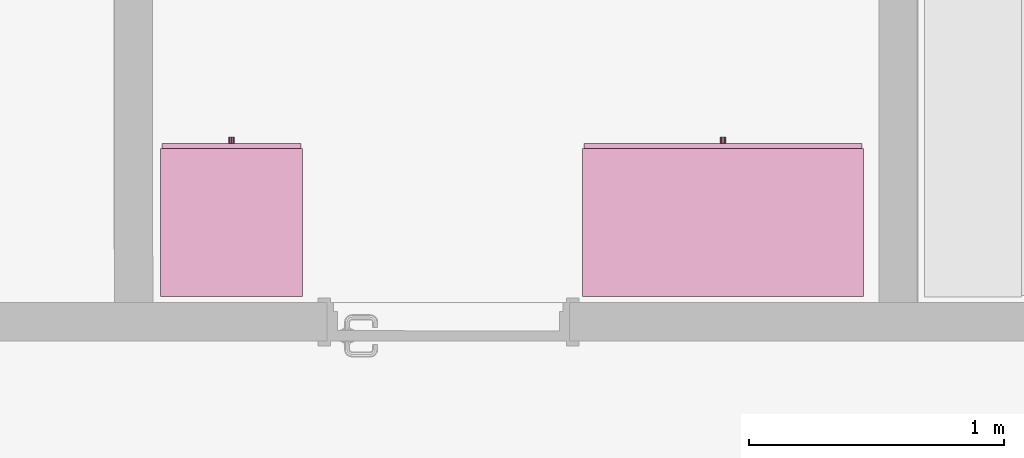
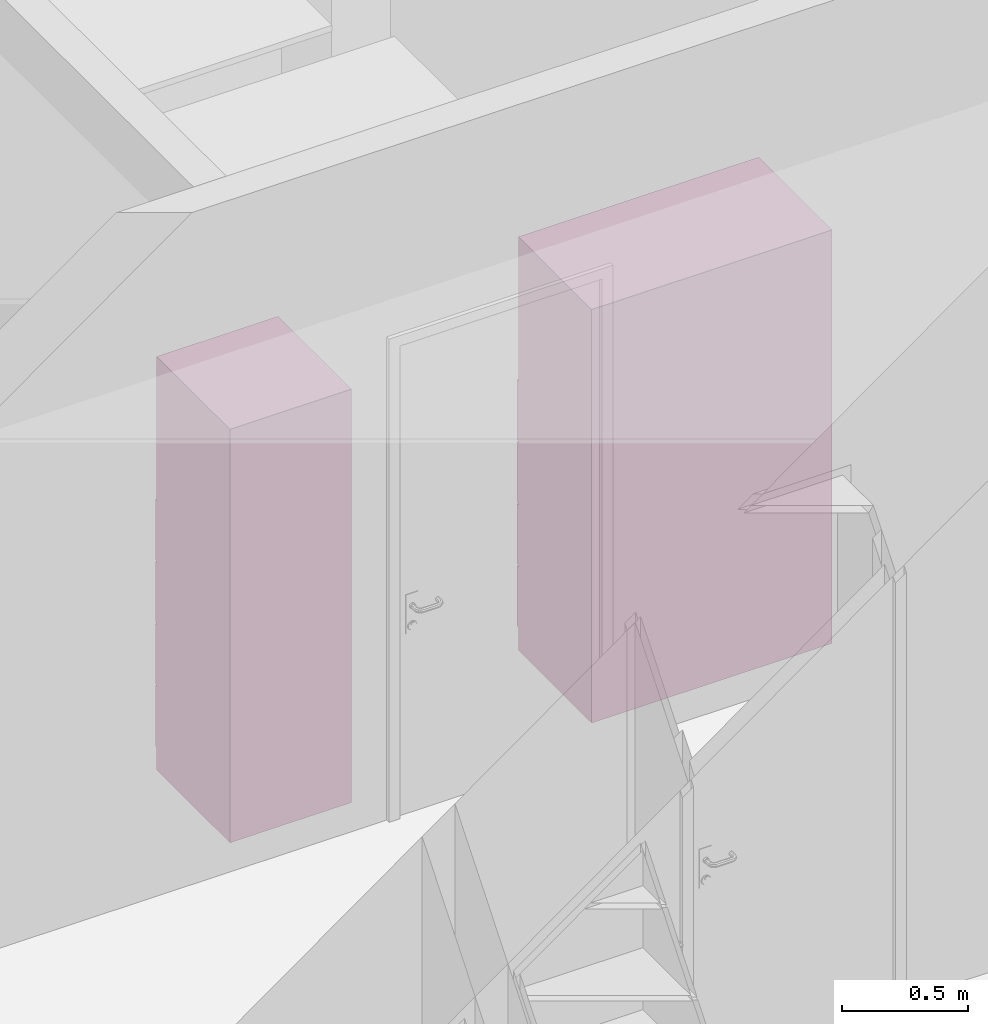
# One storey, part 183 of 194: 2 furnishings.
"""IFC2X3 building model written with IfcOpenShell, lengths in millimetres."""

from ifc_helpers import new_model, entity, si_unit, converted_unit, derived_unit, money_unit, direction, frame, origin_with_axes, place, context, subcontext, project, spatial, faceted_brep, type_object, element, save


model = new_model("IFC2X3")

# Units and contexts
model_context = context("Model", 3, precision=1e-05, world=origin_with_axes(), true_north=direction((0.0, 1.0)))
body_context = subcontext(model_context, "Body", "Model", "MODEL_VIEW")
ifc_project = project(units=[si_unit("LENGTHUNIT", "METRE", prefix="MILLI"), si_unit("AREAUNIT", "SQUARE_METRE"), si_unit("VOLUMEUNIT", "CUBIC_METRE"), converted_unit("PLANEANGLEUNIT", "DEGREE", entity("IfcPlaneAngleMeasure", 0.0174532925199), si_unit("PLANEANGLEUNIT", "RADIAN"), dimensions=[0, 0, 0, 0, 0, 0, 0]), si_unit("SOLIDANGLEUNIT", "STERADIAN"), money_unit("EUR"), converted_unit("TIMEUNIT", "Year", entity("IfcTimeMeasure", 31556926.0), si_unit("TIMEUNIT", "SECOND"), dimensions=[0, 0, 1, 0, 0, 0, 0]), si_unit("MASSUNIT", "GRAM", prefix="KILO"), si_unit("THERMODYNAMICTEMPERATUREUNIT", "DEGREE_CELSIUS"), si_unit("LUMINOUSINTENSITYUNIT", "LUMEN"), si_unit("ENERGYUNIT", "JOULE", prefix="MEGA"), derived_unit("THERMALCONDUCTANCEUNIT", [(si_unit("POWERUNIT", "WATT"), 1), (si_unit("LENGTHUNIT", "METRE"), -1), (si_unit("THERMODYNAMICTEMPERATUREUNIT", "KELVIN"), -1)]), derived_unit("SPECIFICHEATCAPACITYUNIT", [(si_unit("ENERGYUNIT", "JOULE"), 1), (si_unit("MASSUNIT", "GRAM", prefix="KILO"), -1), (si_unit("THERMODYNAMICTEMPERATUREUNIT", "KELVIN"), -1)]), derived_unit("MASSDENSITYUNIT", [(si_unit("MASSUNIT", "GRAM", prefix="KILO"), 1), (si_unit("VOLUMEUNIT", "CUBIC_METRE"), -1)])], contexts=[model_context])

# Site, building, storey
site_placement = place(None, origin_with_axes())
site = spatial("IfcSite", under=ifc_project, at=site_placement, Name="Site", CompositionType="ELEMENT")
building_placement = place(site_placement, origin_with_axes())
building = spatial("IfcBuilding", under=site, at=building_placement, Name="Building", CompositionType="ELEMENT")
storey_placement = place(building_placement, frame((0.0, 0.0, 3000.0), z_axis=(0.0, 0.0, 1.0), x_axis=(1.0, 0.0, 0.0)))
storey = spatial("IfcBuildingStorey", under=building, at=storey_placement, Name="2 KORRUS", CompositionType="ELEMENT", Elevation=3000.0)

# Furnishings
furnishing_element_type_1 = type_object("IfcFurnishingElementType", Name="Model Element 121")
furnishing_1_placement = place(storey_placement, frame((27948.9447229, 68088.4656683, 0.0), z_axis=(0.0, 0.0, 1.0), x_axis=(-1.0, 0.0, 0.0)))
element("IfcFurnishingElement", 1, at=furnishing_1_placement, inside=storey, type_object=furnishing_element_type_1, Name="FU - 001", context=body_context, shape_type="Brep", body=[
    faceted_brep([(1100.0, 19.0, 0.0), (0.0, 19.0, 0.0), (0.0, 600.0, 0.0), (1100.0, 600.0, 0.0), (1100.0, 19.0, 100.0), (0.0, 19.0, 100.0), (0.0, 600.0, 100.0), (1100.0, 600.0, 100.0)], [[[0, 1, 2, 3]], [[1, 0, 4, 5]], [[2, 1, 5, 6]], [[3, 2, 6, 7]], [[0, 3, 7, 4]], [[5, 4, 7, 6]]]),
    faceted_brep([(19.0, 600.0, 119.0), (19.0, 581.0, 119.0), (19.0, 581.0, 1981.0), (19.0, 600.0, 1981.0), (1081.0, 600.0, 119.0), (1081.0, 581.0, 119.0), (1081.0, 581.0, 1981.0), (1081.0, 600.0, 1981.0)], [[[0, 1, 2, 3]], [[0, 4, 5, 1]], [[1, 5, 6, 2]], [[3, 2, 6, 7]], [[4, 0, 3, 7]], [[5, 4, 7, 6]]]),
    faceted_brep([(1100.0, 19.0, 100.0), (1081.0, 19.0, 100.0), (1081.0, 600.0, 100.0), (1100.0, 600.0, 100.0), (1100.0, 19.0, 2000.0), (1081.0, 19.0, 2000.0), (1081.0, 600.0, 2000.0), (1100.0, 600.0, 2000.0)], [[[0, 1, 2, 3]], [[1, 0, 4, 5]], [[2, 1, 5, 6]], [[3, 2, 6, 7]], [[0, 3, 7, 4]], [[5, 4, 7, 6]]]),
    faceted_brep([(19.0, 19.0, 100.0), (0.0, 19.0, 100.0), (0.0, 600.0, 100.0), (19.0, 600.0, 100.0), (19.0, 19.0, 2000.0), (0.0, 19.0, 2000.0), (0.0, 600.0, 2000.0), (19.0, 600.0, 2000.0)], [[[0, 1, 2, 3]], [[1, 0, 4, 5]], [[2, 1, 5, 6]], [[3, 2, 6, 7]], [[0, 3, 7, 4]], [[5, 4, 7, 6]]]),
    faceted_brep([(1081.0, 19.0, 100.0), (19.0, 19.0, 100.0), (19.0, 600.0, 100.0), (1081.0, 600.0, 100.0), (1081.0, 19.0, 119.0), (19.0, 19.0, 119.0), (19.0, 600.0, 119.0), (1081.0, 600.0, 119.0)], [[[0, 1, 2, 3]], [[1, 0, 4, 5]], [[2, 1, 5, 6]], [[3, 2, 6, 7]], [[0, 3, 7, 4]], [[5, 4, 7, 6]]]),
    faceted_brep([(1081.0, 19.0, 1981.0), (19.0, 19.0, 1981.0), (19.0, 600.0, 1981.0), (1081.0, 600.0, 1981.0), (1081.0, 19.0, 2000.0), (19.0, 19.0, 2000.0), (19.0, 600.0, 2000.0), (1081.0, 600.0, 2000.0)], [[[0, 1, 2, 3]], [[1, 0, 4, 5]], [[2, 1, 5, 6]], [[3, 2, 6, 7]], [[0, 3, 7, 4]], [[5, 4, 7, 6]]]),
    faceted_brep([(5.0, 19.0, 105.0), (1095.0, 19.0, 105.0), (1095.0, 0.0, 105.0), (5.0, 0.0, 105.0), (5.0, 19.0, 395.0), (1095.0, 19.0, 395.0), (1095.0, 0.0, 395.0), (5.0, 0.0, 395.0)], [[[0, 1, 2, 3]], [[0, 4, 5, 1]], [[1, 5, 6, 2]], [[3, 2, 6, 7]], [[4, 0, 3, 7]], [[5, 4, 7, 6]]]),
    faceted_brep([(560.392304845, 0.0, 244.0), (556.0, 0.0, 239.607695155), (550.0, 0.0, 238.0), (544.0, 0.0, 239.607695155), (539.607695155, 0.0, 244.0), (538.0, 0.0, 250.0), (539.607695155, 0.0, 256.0), (544.0, 0.0, 260.392304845), (550.0, 0.0, 262.0), (556.0, 0.0, 260.392304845), (560.392304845, 0.0, 256.0), (562.0, 0.0, 250.0), (560.392304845, -25.0, 244.0), (556.0, -25.0, 239.607695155), (550.0, -25.0, 238.0), (544.0, -25.0, 239.607695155), (539.607695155, -25.0, 244.0), (538.0, -25.0, 250.0), (539.607695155, -25.0, 256.0), (544.0, -25.0, 260.392304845), (550.0, -25.0, 262.0), (556.0, -25.0, 260.392304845), (560.392304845, -25.0, 256.0), (562.0, -25.0, 250.0)], [[[0, 1, 2, 3, 4, 5, 6, 7, 8, 9, 10, 11]], [[1, 0, 12, 13]], [[2, 1, 13, 14]], [[3, 2, 14, 15]], [[4, 3, 15, 16]], [[5, 4, 16, 17]], [[6, 5, 17, 18]], [[7, 6, 18, 19]], [[8, 7, 19, 20]], [[9, 8, 20, 21]], [[10, 9, 21, 22]], [[11, 10, 22, 23]], [[0, 11, 23, 12]], [[12, 23, 22, 21, 20, 19, 18, 17, 16, 15, 14, 13]]]),
    faceted_brep([(5.0, 19.0, 405.0), (1095.0, 19.0, 405.0), (1095.0, 0.0, 405.0), (5.0, 0.0, 405.0), (5.0, 19.0, 695.0), (1095.0, 19.0, 695.0), (1095.0, 0.0, 695.0), (5.0, 0.0, 695.0)], [[[0, 1, 2, 3]], [[0, 4, 5, 1]], [[1, 5, 6, 2]], [[3, 2, 6, 7]], [[4, 0, 3, 7]], [[5, 4, 7, 6]]]),
    faceted_brep([(560.392304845, 0.0, 544.0), (556.0, 0.0, 539.607695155), (550.0, 0.0, 538.0), (544.0, 0.0, 539.607695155), (539.607695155, 0.0, 544.0), (538.0, 0.0, 550.0), (539.607695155, 0.0, 556.0), (544.0, 0.0, 560.392304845), (550.0, 0.0, 562.0), (556.0, 0.0, 560.392304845), (560.392304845, 0.0, 556.0), (562.0, 0.0, 550.0), (560.392304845, -25.0, 544.0), (556.0, -25.0, 539.607695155), (550.0, -25.0, 538.0), (544.0, -25.0, 539.607695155), (539.607695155, -25.0, 544.0), (538.0, -25.0, 550.0), (539.607695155, -25.0, 556.0), (544.0, -25.0, 560.392304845), (550.0, -25.0, 562.0), (556.0, -25.0, 560.392304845), (560.392304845, -25.0, 556.0), (562.0, -25.0, 550.0)], [[[0, 1, 2, 3, 4, 5, 6, 7, 8, 9, 10, 11]], [[1, 0, 12, 13]], [[2, 1, 13, 14]], [[3, 2, 14, 15]], [[4, 3, 15, 16]], [[5, 4, 16, 17]], [[6, 5, 17, 18]], [[7, 6, 18, 19]], [[8, 7, 19, 20]], [[9, 8, 20, 21]], [[10, 9, 21, 22]], [[11, 10, 22, 23]], [[0, 11, 23, 12]], [[12, 23, 22, 21, 20, 19, 18, 17, 16, 15, 14, 13]]]),
    faceted_brep([(5.0, 19.0, 705.0), (1095.0, 19.0, 705.0), (1095.0, 0.0, 705.0), (5.0, 0.0, 705.0), (5.0, 19.0, 995.0), (1095.0, 19.0, 995.0), (1095.0, 0.0, 995.0), (5.0, 0.0, 995.0)], [[[0, 1, 2, 3]], [[0, 4, 5, 1]], [[1, 5, 6, 2]], [[3, 2, 6, 7]], [[4, 0, 3, 7]], [[5, 4, 7, 6]]]),
    faceted_brep([(560.392304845, 0.0, 844.0), (556.0, 0.0, 839.607695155), (550.0, 0.0, 838.0), (544.0, 0.0, 839.607695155), (539.607695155, 0.0, 844.0), (538.0, 0.0, 850.0), (539.607695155, 0.0, 856.0), (544.0, 0.0, 860.392304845), (550.0, 0.0, 862.0), (556.0, 0.0, 860.392304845), (560.392304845, 0.0, 856.0), (562.0, 0.0, 850.0), (560.392304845, -25.0, 844.0), (556.0, -25.0, 839.607695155), (550.0, -25.0, 838.0), (544.0, -25.0, 839.607695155), (539.607695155, -25.0, 844.0), (538.0, -25.0, 850.0), (539.607695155, -25.0, 856.0), (544.0, -25.0, 860.392304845), (550.0, -25.0, 862.0), (556.0, -25.0, 860.392304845), (560.392304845, -25.0, 856.0), (562.0, -25.0, 850.0)], [[[0, 1, 2, 3, 4, 5, 6, 7, 8, 9, 10, 11]], [[1, 0, 12, 13]], [[2, 1, 13, 14]], [[3, 2, 14, 15]], [[4, 3, 15, 16]], [[5, 4, 16, 17]], [[6, 5, 17, 18]], [[7, 6, 18, 19]], [[8, 7, 19, 20]], [[9, 8, 20, 21]], [[10, 9, 21, 22]], [[11, 10, 22, 23]], [[0, 11, 23, 12]], [[12, 23, 22, 21, 20, 19, 18, 17, 16, 15, 14, 13]]]),
    faceted_brep([(5.0, 19.0, 1005.0), (1095.0, 19.0, 1005.0), (1095.0, 0.0, 1005.0), (5.0, 0.0, 1005.0), (5.0, 19.0, 1295.0), (1095.0, 19.0, 1295.0), (1095.0, 0.0, 1295.0), (5.0, 0.0, 1295.0)], [[[0, 1, 2, 3]], [[0, 4, 5, 1]], [[1, 5, 6, 2]], [[3, 2, 6, 7]], [[4, 0, 3, 7]], [[5, 4, 7, 6]]]),
    faceted_brep([(560.392304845, 0.0, 1144.0), (556.0, 0.0, 1139.60769515), (550.0, 0.0, 1138.0), (544.0, 0.0, 1139.60769515), (539.607695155, 0.0, 1144.0), (538.0, 0.0, 1150.0), (539.607695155, 0.0, 1156.0), (544.0, 0.0, 1160.39230485), (550.0, 0.0, 1162.0), (556.0, 0.0, 1160.39230485), (560.392304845, 0.0, 1156.0), (562.0, 0.0, 1150.0), (560.392304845, -25.0, 1144.0), (556.0, -25.0, 1139.60769515), (550.0, -25.0, 1138.0), (544.0, -25.0, 1139.60769515), (539.607695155, -25.0, 1144.0), (538.0, -25.0, 1150.0), (539.607695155, -25.0, 1156.0), (544.0, -25.0, 1160.39230485), (550.0, -25.0, 1162.0), (556.0, -25.0, 1160.39230485), (560.392304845, -25.0, 1156.0), (562.0, -25.0, 1150.0)], [[[0, 1, 2, 3, 4, 5, 6, 7, 8, 9, 10, 11]], [[1, 0, 12, 13]], [[2, 1, 13, 14]], [[3, 2, 14, 15]], [[4, 3, 15, 16]], [[5, 4, 16, 17]], [[6, 5, 17, 18]], [[7, 6, 18, 19]], [[8, 7, 19, 20]], [[9, 8, 20, 21]], [[10, 9, 21, 22]], [[11, 10, 22, 23]], [[0, 11, 23, 12]], [[12, 23, 22, 21, 20, 19, 18, 17, 16, 15, 14, 13]]]),
    faceted_brep([(19.0, 19.0, 390.5), (1081.0, 19.0, 390.5), (1081.0, 19.0, 409.5), (19.0, 19.0, 409.5), (19.0, 581.0, 390.5), (1081.0, 581.0, 390.5), (1081.0, 581.0, 409.5), (19.0, 581.0, 409.5)], [[[0, 1, 2, 3]], [[0, 4, 5, 1]], [[1, 5, 6, 2]], [[3, 2, 6, 7]], [[4, 0, 3, 7]], [[5, 4, 7, 6]]]),
    faceted_brep([(19.0, 19.0, 690.5), (1081.0, 19.0, 690.5), (1081.0, 19.0, 709.5), (19.0, 19.0, 709.5), (19.0, 581.0, 690.5), (1081.0, 581.0, 690.5), (1081.0, 581.0, 709.5), (19.0, 581.0, 709.5)], [[[0, 1, 2, 3]], [[0, 4, 5, 1]], [[1, 5, 6, 2]], [[3, 2, 6, 7]], [[4, 0, 3, 7]], [[5, 4, 7, 6]]]),
    faceted_brep([(19.0, 19.0, 990.5), (1081.0, 19.0, 990.5), (1081.0, 19.0, 1009.5), (19.0, 19.0, 1009.5), (19.0, 581.0, 990.5), (1081.0, 581.0, 990.5), (1081.0, 581.0, 1009.5), (19.0, 581.0, 1009.5)], [[[0, 1, 2, 3]], [[0, 4, 5, 1]], [[1, 5, 6, 2]], [[3, 2, 6, 7]], [[4, 0, 3, 7]], [[5, 4, 7, 6]]]),
    faceted_brep([(19.0, 19.0, 1290.5), (1081.0, 19.0, 1290.5), (1081.0, 19.0, 1309.5), (19.0, 19.0, 1309.5), (19.0, 581.0, 1290.5), (1081.0, 581.0, 1290.5), (1081.0, 581.0, 1309.5), (19.0, 581.0, 1309.5)], [[[0, 1, 2, 3]], [[0, 4, 5, 1]], [[1, 5, 6, 2]], [[3, 2, 6, 7]], [[4, 0, 3, 7]], [[5, 4, 7, 6]]]),
    faceted_brep([(1081.0, 19.0, 1463.125), (19.0, 19.0, 1463.125), (19.0, 581.0, 1463.125), (1081.0, 581.0, 1463.125), (1081.0, 19.0, 1482.125), (19.0, 19.0, 1482.125), (19.0, 581.0, 1482.125), (1081.0, 581.0, 1482.125)], [[[0, 1, 2, 3]], [[1, 0, 4, 5]], [[2, 1, 5, 6]], [[3, 2, 6, 7]], [[0, 3, 7, 4]], [[5, 4, 7, 6]]]),
    faceted_brep([(1081.0, 19.0, 1635.75), (19.0, 19.0, 1635.75), (19.0, 581.0, 1635.75), (1081.0, 581.0, 1635.75), (1081.0, 19.0, 1654.75), (19.0, 19.0, 1654.75), (19.0, 581.0, 1654.75), (1081.0, 581.0, 1654.75)], [[[0, 1, 2, 3]], [[1, 0, 4, 5]], [[2, 1, 5, 6]], [[3, 2, 6, 7]], [[0, 3, 7, 4]], [[5, 4, 7, 6]]]),
    faceted_brep([(1081.0, 19.0, 1808.375), (19.0, 19.0, 1808.375), (19.0, 581.0, 1808.375), (1081.0, 581.0, 1808.375), (1081.0, 19.0, 1827.375), (19.0, 19.0, 1827.375), (19.0, 581.0, 1827.375), (1081.0, 581.0, 1827.375)], [[[0, 1, 2, 3]], [[1, 0, 4, 5]], [[2, 1, 5, 6]], [[3, 2, 6, 7]], [[0, 3, 7, 4]], [[5, 4, 7, 6]]]),
])
furnishing_element_type_2 = type_object("IfcFurnishingElementType", Name="Model Element 117")
furnishing_2_placement = place(storey_placement, frame((25749.9826018, 68088.4656683, 0.0), z_axis=(0.0, 0.0, 1.0), x_axis=(-1.0, 0.0, 0.0)))
element("IfcFurnishingElement", 2, at=furnishing_2_placement, inside=storey, type_object=furnishing_element_type_2, Name="FU - 001", context=body_context, shape_type="Brep", body=[
    faceted_brep([(555.585813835, 19.0, 0.0), (0.0, 19.0, 0.0), (0.0, 600.0, 0.0), (555.585813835, 600.0, 0.0), (555.585813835, 19.0, 100.0), (0.0, 19.0, 100.0), (0.0, 600.0, 100.0), (555.585813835, 600.0, 100.0)], [[[0, 1, 2, 3]], [[1, 0, 4, 5]], [[2, 1, 5, 6]], [[3, 2, 6, 7]], [[0, 3, 7, 4]], [[5, 4, 7, 6]]]),
    faceted_brep([(19.0, 600.0, 119.0), (19.0, 581.0, 119.0), (19.0, 581.0, 1981.0), (19.0, 600.0, 1981.0), (536.585813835, 600.0, 119.0), (536.585813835, 581.0, 119.0), (536.585813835, 581.0, 1981.0), (536.585813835, 600.0, 1981.0)], [[[0, 1, 2, 3]], [[0, 4, 5, 1]], [[1, 5, 6, 2]], [[3, 2, 6, 7]], [[4, 0, 3, 7]], [[5, 4, 7, 6]]]),
    faceted_brep([(555.585813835, 19.0, 100.0), (536.585813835, 19.0, 100.0), (536.585813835, 600.0, 100.0), (555.585813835, 600.0, 100.0), (555.585813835, 19.0, 2000.0), (536.585813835, 19.0, 2000.0), (536.585813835, 600.0, 2000.0), (555.585813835, 600.0, 2000.0)], [[[0, 1, 2, 3]], [[1, 0, 4, 5]], [[2, 1, 5, 6]], [[3, 2, 6, 7]], [[0, 3, 7, 4]], [[5, 4, 7, 6]]]),
    faceted_brep([(19.0, 19.0, 100.0), (0.0, 19.0, 100.0), (0.0, 600.0, 100.0), (19.0, 600.0, 100.0), (19.0, 19.0, 2000.0), (0.0, 19.0, 2000.0), (0.0, 600.0, 2000.0), (19.0, 600.0, 2000.0)], [[[0, 1, 2, 3]], [[1, 0, 4, 5]], [[2, 1, 5, 6]], [[3, 2, 6, 7]], [[0, 3, 7, 4]], [[5, 4, 7, 6]]]),
    faceted_brep([(536.585813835, 19.0, 100.0), (19.0, 19.0, 100.0), (19.0, 600.0, 100.0), (536.585813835, 600.0, 100.0), (536.585813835, 19.0, 119.0), (19.0, 19.0, 119.0), (19.0, 600.0, 119.0), (536.585813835, 600.0, 119.0)], [[[0, 1, 2, 3]], [[1, 0, 4, 5]], [[2, 1, 5, 6]], [[3, 2, 6, 7]], [[0, 3, 7, 4]], [[5, 4, 7, 6]]]),
    faceted_brep([(536.585813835, 19.0, 1981.0), (19.0, 19.0, 1981.0), (19.0, 600.0, 1981.0), (536.585813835, 600.0, 1981.0), (536.585813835, 19.0, 2000.0), (19.0, 19.0, 2000.0), (19.0, 600.0, 2000.0), (536.585813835, 600.0, 2000.0)], [[[0, 1, 2, 3]], [[1, 0, 4, 5]], [[2, 1, 5, 6]], [[3, 2, 6, 7]], [[0, 3, 7, 4]], [[5, 4, 7, 6]]]),
    faceted_brep([(5.0, 19.0, 105.0), (550.585813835, 19.0, 105.0), (550.585813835, 0.0, 105.0), (5.0, 0.0, 105.0), (5.0, 19.0, 395.0), (550.585813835, 19.0, 395.0), (550.585813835, 0.0, 395.0), (5.0, 0.0, 395.0)], [[[0, 1, 2, 3]], [[0, 4, 5, 1]], [[1, 5, 6, 2]], [[3, 2, 6, 7]], [[4, 0, 3, 7]], [[5, 4, 7, 6]]]),
    faceted_brep([(288.185211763, 0.0, 244.0), (283.792906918, 0.0, 239.607695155), (277.792906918, 0.0, 238.0), (271.792906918, 0.0, 239.607695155), (267.400602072, 0.0, 244.0), (265.792906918, 0.0, 250.0), (267.400602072, 0.0, 256.0), (271.792906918, 0.0, 260.392304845), (277.792906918, 0.0, 262.0), (283.792906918, 0.0, 260.392304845), (288.185211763, 0.0, 256.0), (289.792906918, 0.0, 250.0), (288.185211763, -25.0, 244.0), (283.792906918, -25.0, 239.607695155), (277.792906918, -25.0, 238.0), (271.792906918, -25.0, 239.607695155), (267.400602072, -25.0, 244.0), (265.792906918, -25.0, 250.0), (267.400602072, -25.0, 256.0), (271.792906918, -25.0, 260.392304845), (277.792906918, -25.0, 262.0), (283.792906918, -25.0, 260.392304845), (288.185211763, -25.0, 256.0), (289.792906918, -25.0, 250.0)], [[[0, 1, 2, 3, 4, 5, 6, 7, 8, 9, 10, 11]], [[1, 0, 12, 13]], [[2, 1, 13, 14]], [[3, 2, 14, 15]], [[4, 3, 15, 16]], [[5, 4, 16, 17]], [[6, 5, 17, 18]], [[7, 6, 18, 19]], [[8, 7, 19, 20]], [[9, 8, 20, 21]], [[10, 9, 21, 22]], [[11, 10, 22, 23]], [[0, 11, 23, 12]], [[12, 23, 22, 21, 20, 19, 18, 17, 16, 15, 14, 13]]]),
    faceted_brep([(5.0, 19.0, 405.0), (550.585813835, 19.0, 405.0), (550.585813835, 0.0, 405.0), (5.0, 0.0, 405.0), (5.0, 19.0, 695.0), (550.585813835, 19.0, 695.0), (550.585813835, 0.0, 695.0), (5.0, 0.0, 695.0)], [[[0, 1, 2, 3]], [[0, 4, 5, 1]], [[1, 5, 6, 2]], [[3, 2, 6, 7]], [[4, 0, 3, 7]], [[5, 4, 7, 6]]]),
    faceted_brep([(288.185211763, 0.0, 544.0), (283.792906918, 0.0, 539.607695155), (277.792906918, 0.0, 538.0), (271.792906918, 0.0, 539.607695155), (267.400602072, 0.0, 544.0), (265.792906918, 0.0, 550.0), (267.400602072, 0.0, 556.0), (271.792906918, 0.0, 560.392304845), (277.792906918, 0.0, 562.0), (283.792906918, 0.0, 560.392304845), (288.185211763, 0.0, 556.0), (289.792906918, 0.0, 550.0), (288.185211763, -25.0, 544.0), (283.792906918, -25.0, 539.607695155), (277.792906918, -25.0, 538.0), (271.792906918, -25.0, 539.607695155), (267.400602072, -25.0, 544.0), (265.792906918, -25.0, 550.0), (267.400602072, -25.0, 556.0), (271.792906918, -25.0, 560.392304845), (277.792906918, -25.0, 562.0), (283.792906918, -25.0, 560.392304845), (288.185211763, -25.0, 556.0), (289.792906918, -25.0, 550.0)], [[[0, 1, 2, 3, 4, 5, 6, 7, 8, 9, 10, 11]], [[1, 0, 12, 13]], [[2, 1, 13, 14]], [[3, 2, 14, 15]], [[4, 3, 15, 16]], [[5, 4, 16, 17]], [[6, 5, 17, 18]], [[7, 6, 18, 19]], [[8, 7, 19, 20]], [[9, 8, 20, 21]], [[10, 9, 21, 22]], [[11, 10, 22, 23]], [[0, 11, 23, 12]], [[12, 23, 22, 21, 20, 19, 18, 17, 16, 15, 14, 13]]]),
    faceted_brep([(5.0, 19.0, 705.0), (550.585813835, 19.0, 705.0), (550.585813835, 0.0, 705.0), (5.0, 0.0, 705.0), (5.0, 19.0, 995.0), (550.585813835, 19.0, 995.0), (550.585813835, 0.0, 995.0), (5.0, 0.0, 995.0)], [[[0, 1, 2, 3]], [[0, 4, 5, 1]], [[1, 5, 6, 2]], [[3, 2, 6, 7]], [[4, 0, 3, 7]], [[5, 4, 7, 6]]]),
    faceted_brep([(288.185211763, 0.0, 844.0), (283.792906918, 0.0, 839.607695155), (277.792906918, 0.0, 838.0), (271.792906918, 0.0, 839.607695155), (267.400602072, 0.0, 844.0), (265.792906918, 0.0, 850.0), (267.400602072, 0.0, 856.0), (271.792906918, 0.0, 860.392304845), (277.792906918, 0.0, 862.0), (283.792906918, 0.0, 860.392304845), (288.185211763, 0.0, 856.0), (289.792906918, 0.0, 850.0), (288.185211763, -25.0, 844.0), (283.792906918, -25.0, 839.607695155), (277.792906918, -25.0, 838.0), (271.792906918, -25.0, 839.607695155), (267.400602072, -25.0, 844.0), (265.792906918, -25.0, 850.0), (267.400602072, -25.0, 856.0), (271.792906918, -25.0, 860.392304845), (277.792906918, -25.0, 862.0), (283.792906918, -25.0, 860.392304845), (288.185211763, -25.0, 856.0), (289.792906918, -25.0, 850.0)], [[[0, 1, 2, 3, 4, 5, 6, 7, 8, 9, 10, 11]], [[1, 0, 12, 13]], [[2, 1, 13, 14]], [[3, 2, 14, 15]], [[4, 3, 15, 16]], [[5, 4, 16, 17]], [[6, 5, 17, 18]], [[7, 6, 18, 19]], [[8, 7, 19, 20]], [[9, 8, 20, 21]], [[10, 9, 21, 22]], [[11, 10, 22, 23]], [[0, 11, 23, 12]], [[12, 23, 22, 21, 20, 19, 18, 17, 16, 15, 14, 13]]]),
    faceted_brep([(5.0, 19.0, 1005.0), (550.585813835, 19.0, 1005.0), (550.585813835, 0.0, 1005.0), (5.0, 0.0, 1005.0), (5.0, 19.0, 1295.0), (550.585813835, 19.0, 1295.0), (550.585813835, 0.0, 1295.0), (5.0, 0.0, 1295.0)], [[[0, 1, 2, 3]], [[0, 4, 5, 1]], [[1, 5, 6, 2]], [[3, 2, 6, 7]], [[4, 0, 3, 7]], [[5, 4, 7, 6]]]),
    faceted_brep([(288.185211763, 0.0, 1144.0), (283.792906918, 0.0, 1139.60769515), (277.792906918, 0.0, 1138.0), (271.792906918, 0.0, 1139.60769515), (267.400602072, 0.0, 1144.0), (265.792906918, 0.0, 1150.0), (267.400602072, 0.0, 1156.0), (271.792906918, 0.0, 1160.39230485), (277.792906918, 0.0, 1162.0), (283.792906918, 0.0, 1160.39230485), (288.185211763, 0.0, 1156.0), (289.792906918, 0.0, 1150.0), (288.185211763, -25.0, 1144.0), (283.792906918, -25.0, 1139.60769515), (277.792906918, -25.0, 1138.0), (271.792906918, -25.0, 1139.60769515), (267.400602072, -25.0, 1144.0), (265.792906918, -25.0, 1150.0), (267.400602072, -25.0, 1156.0), (271.792906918, -25.0, 1160.39230485), (277.792906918, -25.0, 1162.0), (283.792906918, -25.0, 1160.39230485), (288.185211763, -25.0, 1156.0), (289.792906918, -25.0, 1150.0)], [[[0, 1, 2, 3, 4, 5, 6, 7, 8, 9, 10, 11]], [[1, 0, 12, 13]], [[2, 1, 13, 14]], [[3, 2, 14, 15]], [[4, 3, 15, 16]], [[5, 4, 16, 17]], [[6, 5, 17, 18]], [[7, 6, 18, 19]], [[8, 7, 19, 20]], [[9, 8, 20, 21]], [[10, 9, 21, 22]], [[11, 10, 22, 23]], [[0, 11, 23, 12]], [[12, 23, 22, 21, 20, 19, 18, 17, 16, 15, 14, 13]]]),
    faceted_brep([(19.0, 19.0, 390.5), (536.585813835, 19.0, 390.5), (536.585813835, 19.0, 409.5), (19.0, 19.0, 409.5), (19.0, 581.0, 390.5), (536.585813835, 581.0, 390.5), (536.585813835, 581.0, 409.5), (19.0, 581.0, 409.5)], [[[0, 1, 2, 3]], [[0, 4, 5, 1]], [[1, 5, 6, 2]], [[3, 2, 6, 7]], [[4, 0, 3, 7]], [[5, 4, 7, 6]]]),
    faceted_brep([(19.0, 19.0, 690.5), (536.585813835, 19.0, 690.5), (536.585813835, 19.0, 709.5), (19.0, 19.0, 709.5), (19.0, 581.0, 690.5), (536.585813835, 581.0, 690.5), (536.585813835, 581.0, 709.5), (19.0, 581.0, 709.5)], [[[0, 1, 2, 3]], [[0, 4, 5, 1]], [[1, 5, 6, 2]], [[3, 2, 6, 7]], [[4, 0, 3, 7]], [[5, 4, 7, 6]]]),
    faceted_brep([(19.0, 19.0, 990.5), (536.585813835, 19.0, 990.5), (536.585813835, 19.0, 1009.5), (19.0, 19.0, 1009.5), (19.0, 581.0, 990.5), (536.585813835, 581.0, 990.5), (536.585813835, 581.0, 1009.5), (19.0, 581.0, 1009.5)], [[[0, 1, 2, 3]], [[0, 4, 5, 1]], [[1, 5, 6, 2]], [[3, 2, 6, 7]], [[4, 0, 3, 7]], [[5, 4, 7, 6]]]),
    faceted_brep([(19.0, 19.0, 1290.5), (536.585813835, 19.0, 1290.5), (536.585813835, 19.0, 1309.5), (19.0, 19.0, 1309.5), (19.0, 581.0, 1290.5), (536.585813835, 581.0, 1290.5), (536.585813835, 581.0, 1309.5), (19.0, 581.0, 1309.5)], [[[0, 1, 2, 3]], [[0, 4, 5, 1]], [[1, 5, 6, 2]], [[3, 2, 6, 7]], [[4, 0, 3, 7]], [[5, 4, 7, 6]]]),
    faceted_brep([(536.585813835, 19.0, 1463.125), (19.0, 19.0, 1463.125), (19.0, 581.0, 1463.125), (536.585813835, 581.0, 1463.125), (536.585813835, 19.0, 1482.125), (19.0, 19.0, 1482.125), (19.0, 581.0, 1482.125), (536.585813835, 581.0, 1482.125)], [[[0, 1, 2, 3]], [[1, 0, 4, 5]], [[2, 1, 5, 6]], [[3, 2, 6, 7]], [[0, 3, 7, 4]], [[5, 4, 7, 6]]]),
    faceted_brep([(536.585813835, 19.0, 1635.75), (19.0, 19.0, 1635.75), (19.0, 581.0, 1635.75), (536.585813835, 581.0, 1635.75), (536.585813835, 19.0, 1654.75), (19.0, 19.0, 1654.75), (19.0, 581.0, 1654.75), (536.585813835, 581.0, 1654.75)], [[[0, 1, 2, 3]], [[1, 0, 4, 5]], [[2, 1, 5, 6]], [[3, 2, 6, 7]], [[0, 3, 7, 4]], [[5, 4, 7, 6]]]),
    faceted_brep([(536.585813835, 19.0, 1808.375), (19.0, 19.0, 1808.375), (19.0, 581.0, 1808.375), (536.585813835, 581.0, 1808.375), (536.585813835, 19.0, 1827.375), (19.0, 19.0, 1827.375), (19.0, 581.0, 1827.375), (536.585813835, 581.0, 1827.375)], [[[0, 1, 2, 3]], [[1, 0, 4, 5]], [[2, 1, 5, 6]], [[3, 2, 6, 7]], [[0, 3, 7, 4]], [[5, 4, 7, 6]]]),
])

save(model, "model.ifc")
